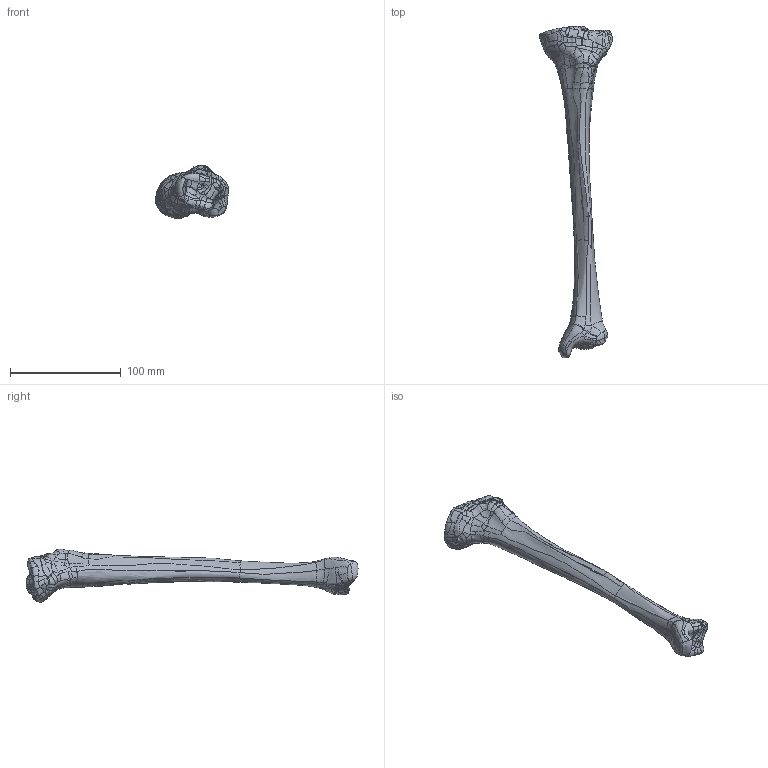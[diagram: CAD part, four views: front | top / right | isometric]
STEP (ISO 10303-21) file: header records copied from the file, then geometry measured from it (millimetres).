
FILE_DESCRIPTION (( 'STEP AP203' ), '1' );
FILE_NAME ('1116-5.STEP', '2025-05-26T17:22:29', ( '' ), ( '' ), 'SwSTEP 2.0', 'SolidWorks 2024', '' );
FILE_SCHEMA (( 'CONFIG_CONTROL_DESIGN' ));
Products named in the file (1): 1116-5
Bounding box: 66.06 x 300.44 x 48.42 mm (x, y, z)
Volume: 157962 mm3; surface area: 27536.9 mm2
Topology: 1 solids, 1 shells, 594 faces, 1511 edges, 933 vertices
Faces by surface type: bspline 592, plane 2
Entity records: 123831 total; most frequent: CARTESIAN_POINT 114360, ORIENTED_EDGE 3022, EDGE_CURVE 1511, B_SPLINE_CURVE_WITH_KNOTS 1511, VERTEX_POINT 933, EDGE_LOOP 608, FACE_OUTER_BOUND 594, ADVANCED_FACE 594
